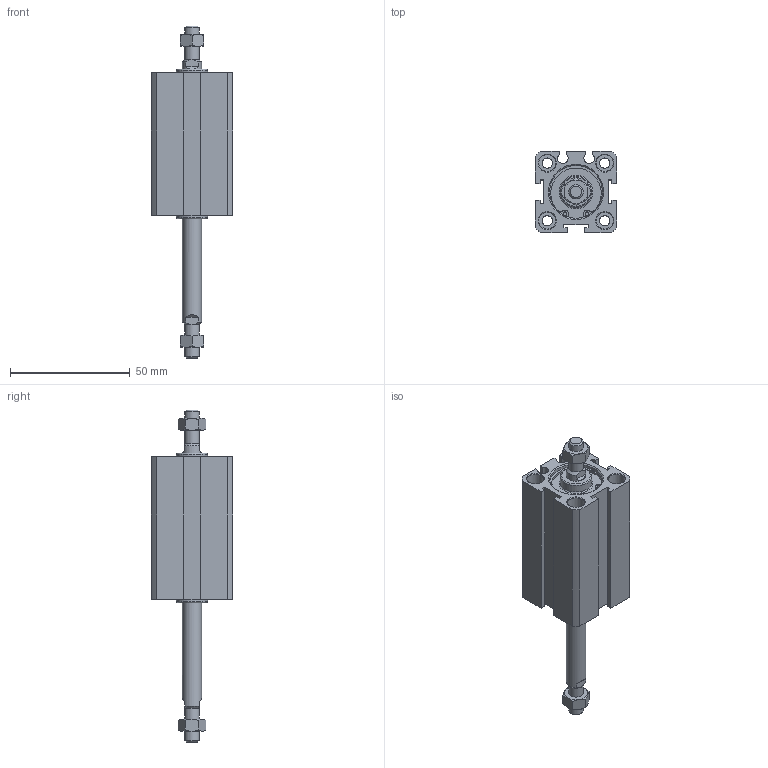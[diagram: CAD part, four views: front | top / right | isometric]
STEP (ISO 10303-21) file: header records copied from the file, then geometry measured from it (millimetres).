
FILE_DESCRIPTION((''),'2;1');
FILE_NAME('I:\3D電子目錄\氣缸\JDD\JDD-B\JDD20-B\JDD20x40-B.stp','2007-02-09T10:03:08',('662F206'),(''),'Autodesk Inventor 10','Autodesk Inventor 10','');
FILE_SCHEMA(('AUTOMOTIVE_DESIGN { 1 0 10303 214 1 1 1 1 }'));
Length unit declared in the file: millimetre
Products named in the file (3): JDD20-B; R 形環 23
Assembly tree (3 placements, depth 2):
  JDD20-B
    JDD20-B
    R 形環 23  x2
Bounding box: 34 x 34 x 138.5 mm (x, y, z)
Volume: 59318.2 mm3; surface area: 20631.2 mm2
Topology: 3 solids, 3 shells, 179 faces, 407 edges, 260 vertices
Faces by surface type: plane 84, cylinder 51, cone 32, bspline 10, torus 2
Full cylindrical faces by diameter (mm): 1.5 x6, 4.3 x4, 6 x4, 7 x8, 8 x1, 13 x2, 22 x4, 23.2 x2
Entity records: 4509 total; most frequent: CARTESIAN_POINT 953, DIRECTION 732, ORIENTED_EDGE 638, EDGE_CURVE 319, AXIS2_PLACEMENT_3D 294, EDGE_LOOP 256, VERTEX_POINT 233, FACE_OUTER_BOUND 167
